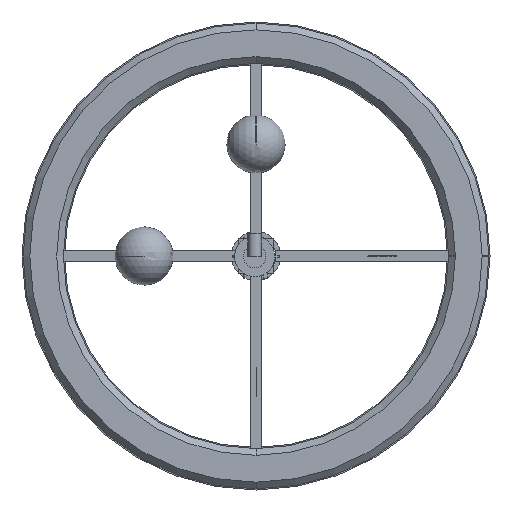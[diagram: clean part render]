
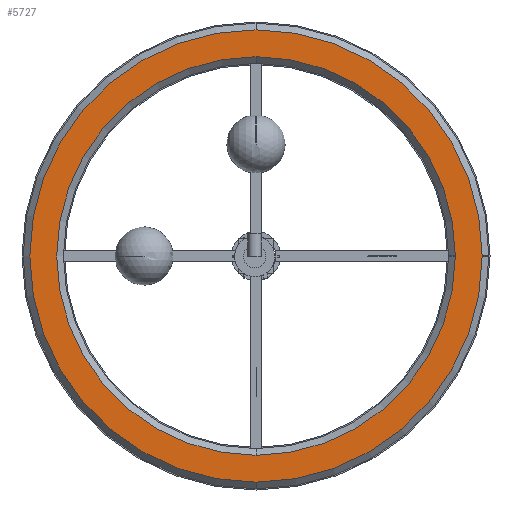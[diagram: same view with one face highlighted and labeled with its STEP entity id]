
A CAD part, front view. The second image highlights one B-rep face of the part: STEP entity #5727.
In plain terms, the highlighted planar face has unit normal (0, -1, 0).
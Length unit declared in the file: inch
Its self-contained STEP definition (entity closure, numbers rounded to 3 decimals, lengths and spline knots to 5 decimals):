
#18 = CARTESIAN_POINT ( 'NONE',  ( 0., -275.59055, -3503.93701 ) ) ;
#173 = EDGE_CURVE ( 'NONE', #5508, #5159, #4814, .T. ) ;
#174 = ORIENTED_EDGE ( 'NONE', *, *, #3131, .T. ) ;
#277 = VERTEX_POINT ( 'NONE', #5267 ) ;
#348 = ORIENTED_EDGE ( 'NONE', *, *, #3121, .F. ) ;
#514 = AXIS2_PLACEMENT_3D ( 'NONE', #5060, #972, #1445 ) ;
#550 = CIRCLE ( 'NONE', #3782, 3976.37795 ) ;
#697 = CARTESIAN_POINT ( 'NONE',  ( 3503.93701, -275.59055, 0. ) ) ;
#740 = DIRECTION ( 'NONE',  ( 0., 0., -1. ) ) ;
#751 = DIRECTION ( 'NONE',  ( 1., 0., 0. ) ) ;
#783 = EDGE_LOOP ( 'NONE', ( #2103, #174, #873, #1718, #4854, #348, #5434, #5520 ) ) ;
#798 = VECTOR ( 'NONE', #751, 39.37008 ) ;
#873 = ORIENTED_EDGE ( 'NONE', *, *, #173, .T. ) ;
#912 = CARTESIAN_POINT ( 'NONE',  ( 0., -275.59055, 3976.37795 ) ) ;
#972 = DIRECTION ( 'NONE',  ( 0., -1., 0. ) ) ;
#1161 = LINE ( 'NONE', #4797, #798 ) ;
#1214 = DIRECTION ( 'NONE',  ( 0., -1., 0. ) ) ;
#1445 = DIRECTION ( 'NONE',  ( 0., 0., -1. ) ) ;
#1457 = VERTEX_POINT ( 'NONE', #18 ) ;
#1502 = DIRECTION ( 'NONE',  ( 0., -1., 0. ) ) ;
#1522 = EDGE_CURVE ( 'NONE', #3376, #3778, #4505, .T. ) ;
#1603 = DIRECTION ( 'NONE',  ( 0., -1., 0. ) ) ;
#1632 = PLANE ( 'NONE',  #3670 ) ;
#1685 = VERTEX_POINT ( 'NONE', #2322 ) ;
#1718 = ORIENTED_EDGE ( 'NONE', *, *, #5358, .T. ) ;
#1797 = DIRECTION ( 'NONE',  ( 0., -1., 0. ) ) ;
#1901 = CARTESIAN_POINT ( 'NONE',  ( 3976.37795, -275.59055, 0. ) ) ;
#1946 = AXIS2_PLACEMENT_3D ( 'NONE', #4823, #1214, #740 ) ;
#2103 = ORIENTED_EDGE ( 'NONE', *, *, #2512, .T. ) ;
#2322 = CARTESIAN_POINT ( 'NONE',  ( 3976.37795, -275.59055, 0. ) ) ;
#2512 = EDGE_CURVE ( 'NONE', #3376, #5586, #1161, .T. ) ;
#2561 = CARTESIAN_POINT ( 'NONE',  ( 0., -275.59055, 0. ) ) ;
#2737 = VECTOR ( 'NONE', #3507, 39.37008 ) ;
#2758 = DIRECTION ( 'NONE',  ( 0., 0., -1. ) ) ;
#2925 = DIRECTION ( 'NONE',  ( 0., 0., -1. ) ) ;
#2956 = CARTESIAN_POINT ( 'NONE',  ( 3976.37795, -275.59055, 0. ) ) ;
#2970 = DIRECTION ( 'NONE',  ( 0., -1., 0. ) ) ;
#3121 = EDGE_CURVE ( 'NONE', #1457, #277, #3308, .T. ) ;
#3131 = EDGE_CURVE ( 'NONE', #5586, #5508, #550, .T. ) ;
#3191 = CIRCLE ( 'NONE', #1946, 3976.37795 ) ;
#3273 = EDGE_CURVE ( 'NONE', #277, #1685, #5327, .T. ) ;
#3297 = CARTESIAN_POINT ( 'NONE',  ( 0., -275.59055, 0. ) ) ;
#3308 = CIRCLE ( 'NONE', #3875, 3503.93701 ) ;
#3326 = DIRECTION ( 'NONE',  ( 0., 0., -1. ) ) ;
#3376 = VERTEX_POINT ( 'NONE', #697 ) ;
#3426 = CARTESIAN_POINT ( 'NONE',  ( 0., -275.59055, 3503.93701 ) ) ;
#3456 = FACE_OUTER_BOUND ( 'NONE', #783, .T. ) ;
#3507 = DIRECTION ( 'NONE',  ( 1., 0., 0. ) ) ;
#3670 = AXIS2_PLACEMENT_3D ( 'NONE', #2956, #1603, #2925 ) ;
#3778 = VERTEX_POINT ( 'NONE', #3426 ) ;
#3782 = AXIS2_PLACEMENT_3D ( 'NONE', #5423, #1797, #2758 ) ;
#3875 = AXIS2_PLACEMENT_3D ( 'NONE', #2561, #2970, #4783 ) ;
#4331 = CARTESIAN_POINT ( 'NONE',  ( 3976.37795, -275.59055, 0. ) ) ;
#4505 = CIRCLE ( 'NONE', #514, 3503.93701 ) ;
#4523 = AXIS2_PLACEMENT_3D ( 'NONE', #3297, #1502, #3326 ) ;
#4693 = EDGE_CURVE ( 'NONE', #3778, #1457, #4829, .T. ) ;
#4783 = DIRECTION ( 'NONE',  ( 0., 0., -1. ) ) ;
#4797 = CARTESIAN_POINT ( 'NONE',  ( 3976.37795, -275.59055, 0. ) ) ;
#4814 = CIRCLE ( 'NONE', #4523, 3976.37795 ) ;
#4823 = CARTESIAN_POINT ( 'NONE',  ( 0., -275.59055, 0. ) ) ;
#4829 = CIRCLE ( 'NONE', #4996, 3503.93701 ) ;
#4854 = ORIENTED_EDGE ( 'NONE', *, *, #3273, .F. ) ;
#4996 = AXIS2_PLACEMENT_3D ( 'NONE', #5264, #5233, #5784 ) ;
#5060 = CARTESIAN_POINT ( 'NONE',  ( 0., -275.59055, 0. ) ) ;
#5159 = VERTEX_POINT ( 'NONE', #5619 ) ;
#5233 = DIRECTION ( 'NONE',  ( 0., -1., 0. ) ) ;
#5264 = CARTESIAN_POINT ( 'NONE',  ( 0., -275.59055, 0. ) ) ;
#5267 = CARTESIAN_POINT ( 'NONE',  ( 3503.93701, -275.59055, 0. ) ) ;
#5327 = LINE ( 'NONE', #4331, #2737 ) ;
#5358 = EDGE_CURVE ( 'NONE', #5159, #1685, #3191, .T. ) ;
#5423 = CARTESIAN_POINT ( 'NONE',  ( 0., -275.59055, 0. ) ) ;
#5434 = ORIENTED_EDGE ( 'NONE', *, *, #4693, .F. ) ;
#5508 = VERTEX_POINT ( 'NONE', #912 ) ;
#5520 = ORIENTED_EDGE ( 'NONE', *, *, #1522, .F. ) ;
#5586 = VERTEX_POINT ( 'NONE', #1901 ) ;
#5619 = CARTESIAN_POINT ( 'NONE',  ( 0., -275.59055, -3976.37795 ) ) ;
#5727 = ADVANCED_FACE ( 'NONE', ( #3456 ), #1632, .T. ) ;
#5784 = DIRECTION ( 'NONE',  ( 0., 0., -1. ) ) ;
